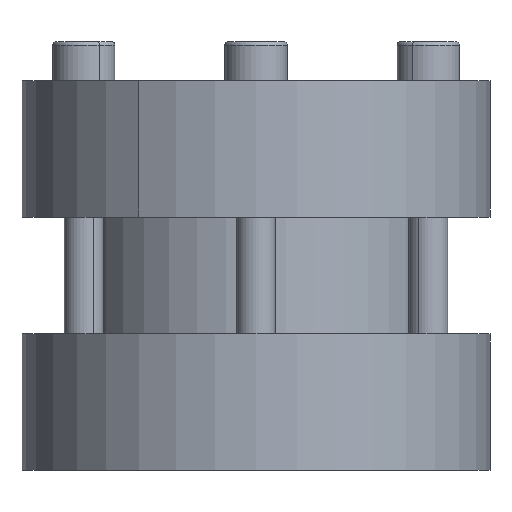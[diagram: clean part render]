
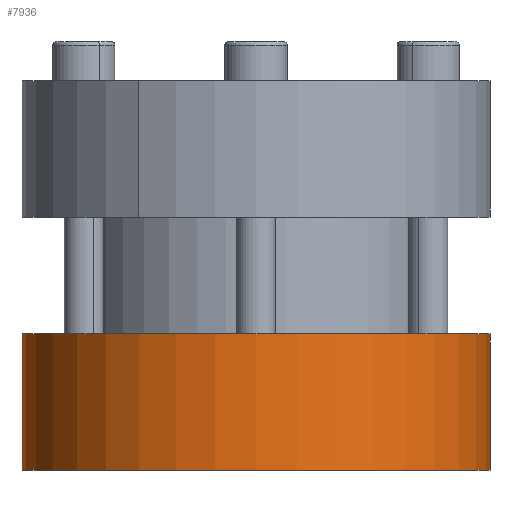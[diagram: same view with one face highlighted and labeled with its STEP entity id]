
A CAD part, front view. The second image highlights one B-rep face of the part: STEP entity #7936.
In plain terms, the highlighted cylindrical face has radius 60 mm (diameter 120 mm), a partial arc.
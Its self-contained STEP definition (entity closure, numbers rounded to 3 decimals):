
#105 = VERTEX_POINT ( 'NONE', #6983 ) ;
#116 = ORIENTED_EDGE ( 'NONE', *, *, #5039, .F. ) ;
#119 = EDGE_LOOP ( 'NONE', ( #7639, #116, #7612, #3587 ) ) ;
#349 = CARTESIAN_POINT ( 'NONE',  ( 60., 0., -1.993 ) ) ;
#1118 = CARTESIAN_POINT ( 'NONE',  ( 60., 0., 33.007 ) ) ;
#1443 = CARTESIAN_POINT ( 'NONE',  ( -60., 0., -1.993 ) ) ;
#1499 = LINE ( 'NONE', #4246, #6053 ) ;
#1676 = DIRECTION ( 'NONE',  ( 0., 0., 1. ) ) ;
#1696 = CYLINDRICAL_SURFACE ( 'NONE', #2831, 60. ) ;
#1914 = DIRECTION ( 'NONE',  ( 0., 0., -1. ) ) ;
#2176 = CARTESIAN_POINT ( 'NONE',  ( 0., 0., 33.007 ) ) ;
#2260 = CARTESIAN_POINT ( 'NONE',  ( -60., 0., 33.007 ) ) ;
#2320 = EDGE_CURVE ( 'NONE', #105, #9288, #4865, .T. ) ;
#2831 = AXIS2_PLACEMENT_3D ( 'NONE', #4823, #1914, #7683 ) ;
#2895 = DIRECTION ( 'NONE',  ( 1., 0., 0. ) ) ;
#3587 = ORIENTED_EDGE ( 'NONE', *, *, #7254, .T. ) ;
#3706 = VERTEX_POINT ( 'NONE', #1118 ) ;
#4078 = AXIS2_PLACEMENT_3D ( 'NONE', #2176, #7178, #2895 ) ;
#4246 = CARTESIAN_POINT ( 'NONE',  ( 60., 0., 33.007 ) ) ;
#4253 = FACE_OUTER_BOUND ( 'NONE', #119, .T. ) ;
#4823 = CARTESIAN_POINT ( 'NONE',  ( 0., 0., 33.007 ) ) ;
#4865 = LINE ( 'NONE', #2260, #5860 ) ;
#4992 = DIRECTION ( 'NONE',  ( 0., 0., -1. ) ) ;
#5039 = EDGE_CURVE ( 'NONE', #105, #3706, #7320, .T. ) ;
#5331 = AXIS2_PLACEMENT_3D ( 'NONE', #5950, #1676, #6682 ) ;
#5860 = VECTOR ( 'NONE', #6557, 1000. ) ;
#5950 = CARTESIAN_POINT ( 'NONE',  ( 0., 0., -1.993 ) ) ;
#6053 = VECTOR ( 'NONE', #4992, 1000. ) ;
#6557 = DIRECTION ( 'NONE',  ( 0., 0., -1. ) ) ;
#6682 = DIRECTION ( 'NONE',  ( 1., 0., 0. ) ) ;
#6983 = CARTESIAN_POINT ( 'NONE',  ( -60., 0., 33.007 ) ) ;
#7178 = DIRECTION ( 'NONE',  ( 0., 0., 1. ) ) ;
#7254 = EDGE_CURVE ( 'NONE', #9288, #9055, #7615, .T. ) ;
#7320 = CIRCLE ( 'NONE', #4078, 60. ) ;
#7612 = ORIENTED_EDGE ( 'NONE', *, *, #2320, .T. ) ;
#7615 = CIRCLE ( 'NONE', #5331, 60. ) ;
#7639 = ORIENTED_EDGE ( 'NONE', *, *, #7653, .F. ) ;
#7653 = EDGE_CURVE ( 'NONE', #3706, #9055, #1499, .T. ) ;
#7683 = DIRECTION ( 'NONE',  ( -1., 0., 0. ) ) ;
#7936 = ADVANCED_FACE ( 'NONE', ( #4253 ), #1696, .T. ) ;
#9055 = VERTEX_POINT ( 'NONE', #349 ) ;
#9288 = VERTEX_POINT ( 'NONE', #1443 ) ;
